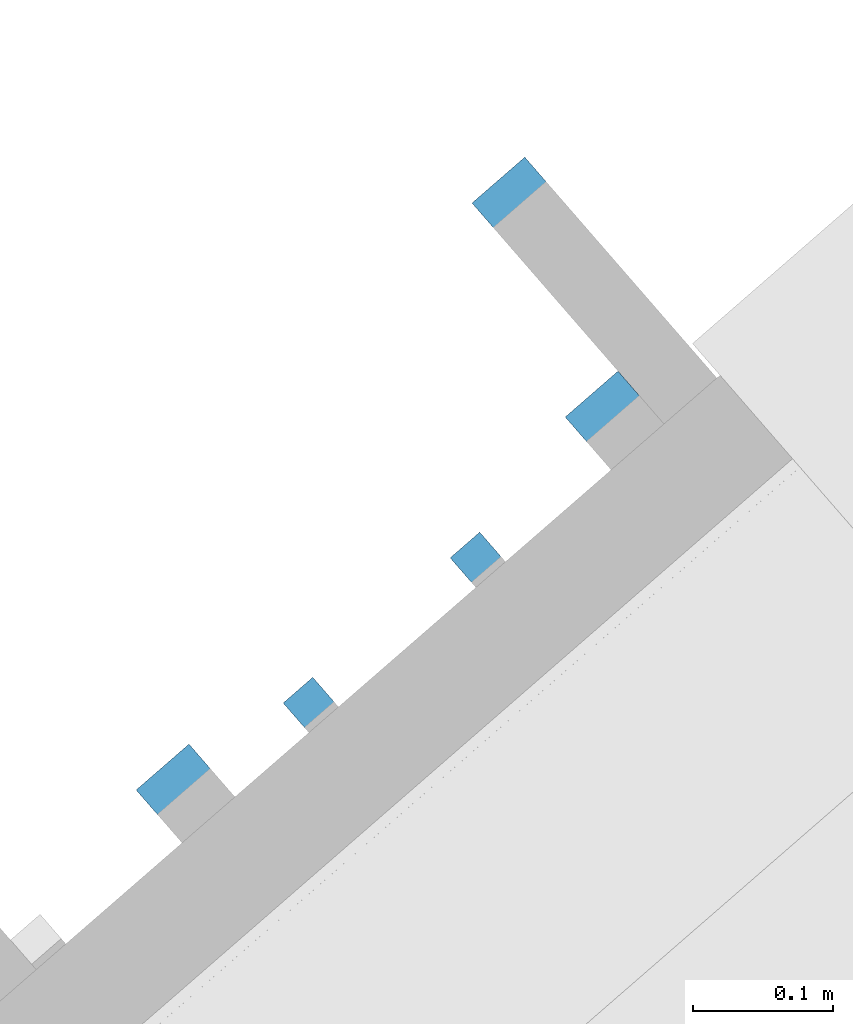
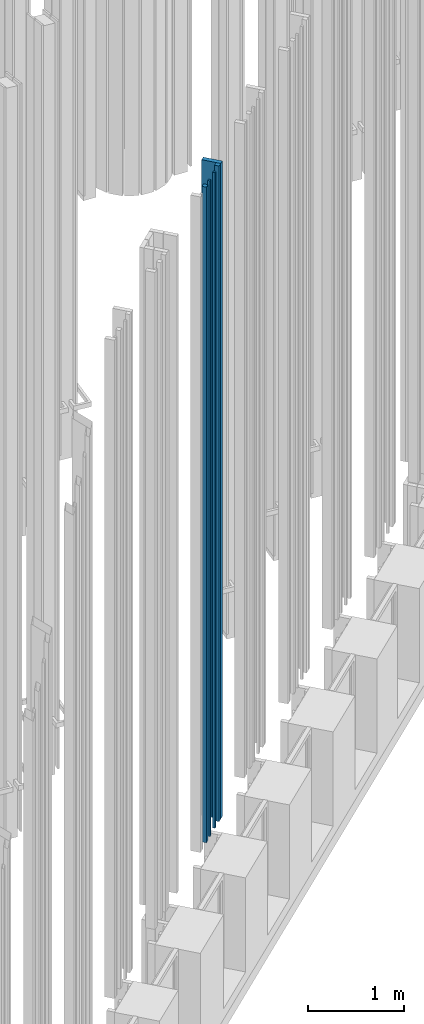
# One storey, part 241 of 390: 5 walls.
"""IFC2X3 building model written with IfcOpenShell, lengths in millimetres."""

from ifc_helpers import new_model, entity, si_unit, converted_unit, derived_unit, money_unit, direction, frame, origin_with_axes, place, context, subcontext, project, spatial, faceted_brep, material, type_object, element, save


model = new_model("IFC2X3")

# Units and contexts
model_context = context("Model", 3, precision=1e-05, world=origin_with_axes(), true_north=direction((0.0, 1.0)))
body_context = subcontext(model_context, "Body", "Model", "MODEL_VIEW")
ifc_project = project(units=[si_unit("LENGTHUNIT", "METRE", prefix="MILLI"), si_unit("AREAUNIT", "SQUARE_METRE"), si_unit("VOLUMEUNIT", "CUBIC_METRE"), converted_unit("PLANEANGLEUNIT", "DEGREE", entity("IfcPlaneAngleMeasure", 0.0174532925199), si_unit("PLANEANGLEUNIT", "RADIAN"), dimensions=[0, 0, 0, 0, 0, 0, 0]), si_unit("SOLIDANGLEUNIT", "STERADIAN"), money_unit("EUR"), converted_unit("TIMEUNIT", "Year", entity("IfcTimeMeasure", 31556926.0), si_unit("TIMEUNIT", "SECOND"), dimensions=[0, 0, 1, 0, 0, 0, 0]), si_unit("MASSUNIT", "GRAM", prefix="KILO"), si_unit("THERMODYNAMICTEMPERATUREUNIT", "DEGREE_CELSIUS"), si_unit("LUMINOUSINTENSITYUNIT", "LUMEN"), si_unit("ENERGYUNIT", "JOULE", prefix="MEGA"), derived_unit("THERMALCONDUCTANCEUNIT", [(si_unit("POWERUNIT", "WATT"), 1), (si_unit("LENGTHUNIT", "METRE"), -1), (si_unit("THERMODYNAMICTEMPERATUREUNIT", "KELVIN"), -1)]), derived_unit("SPECIFICHEATCAPACITYUNIT", [(si_unit("ENERGYUNIT", "JOULE"), 1), (si_unit("MASSUNIT", "GRAM", prefix="KILO"), -1), (si_unit("THERMODYNAMICTEMPERATUREUNIT", "KELVIN"), -1)]), derived_unit("MASSDENSITYUNIT", [(si_unit("MASSUNIT", "GRAM", prefix="KILO"), 1), (si_unit("VOLUMEUNIT", "CUBIC_METRE"), -1)])], contexts=[model_context])

# Site, building, storey
site_placement = place(None, origin_with_axes())
site = spatial("IfcSite", under=ifc_project, at=site_placement, Name="Site", CompositionType="ELEMENT")
building_placement = place(site_placement, origin_with_axes())
building = spatial("IfcBuilding", under=site, at=building_placement, Name="Building", CompositionType="ELEMENT")
storey_placement = place(building_placement, origin_with_axes())
storey = spatial("IfcBuildingStorey", under=building, at=storey_placement, Name="1 korrus", CompositionType="ELEMENT", Elevation=0.0)

# Walls
ifc_material = material(Name="Site specified")
wall_type = type_object("IfcWallType", Name="Puitfassaadi ribistik", PredefinedType="NOTDEFINED")
wall_placement = place(storey_placement, frame((143509.543339, 94892.6970963, 1535.82031325), z_axis=(0.0, 0.0, 1.0), x_axis=(0.754709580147, 0.656059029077, 0.0)))
element("IfcWall", 1, at=wall_placement, inside=storey, type_object=wall_type, material=ifc_material, Name="Site specified", context=body_context, shape_type="Brep", body=[
    faceted_brep([(25.0, 104.5, 8329.17968675), (25.0, 104.5, 0.0), (-25.0, 104.5, 0.0), (-25.0, 104.5, 8329.17968675), (25.0, -104.5, 8329.17968675), (25.0, -104.5, 0.0), (-25.0, -104.5, 0.0), (-25.0, -104.5, 8329.17968675)], [[[0, 1, 2, 3]], [[4, 5, 1, 0]], [[2, 1, 5, 6]], [[3, 2, 6, 7]], [[4, 0, 3, 7]], [[7, 6, 5, 4]]]),
])
for number, where, z_axis, x_axis, name in (
    (2, (143426.276571, 94700.4007228, 1535.82031325), (0.0, 0.0, 1.0), (0.754709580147, 0.656059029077, 0.0), "Site specified"),
    (3, (143307.032457, 94596.7433962, 1535.82031325), (0.0, 0.0, 1.0), (0.754709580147, 0.656059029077, 0.0), "Site specified"),
):
    element("IfcWall", number, at=place(storey_placement, frame(where, z_axis=z_axis, x_axis=x_axis)), inside=storey, type_object=wall_type, material=ifc_material, Name=name, context=body_context, shape_type="Brep", body=[
        faceted_brep([(14.0, 14.0, 8329.17968675), (14.0, 14.0, 0.0), (-14.0, 14.0, 0.0), (-14.0, 14.0, 8329.17968675), (14.0, -14.0, 8329.17968675), (14.0, -14.0, 0.0), (-14.0, -14.0, 0.0), (-14.0, -14.0, 8329.17968675)], [[[0, 1, 2, 3]], [[4, 5, 1, 0]], [[2, 1, 5, 6]], [[3, 2, 6, 7]], [[4, 0, 3, 7]], [[7, 6, 5, 4]]]),
    ])
for number, where, z_axis, x_axis, name in (
    (4, (143217.552463, 94533.5347675, 1535.82031325), (0.0, 0.0, 1.0), (0.754709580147, 0.656059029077, 0.0), "Site specified"),
    (5, (143523.964553, 94799.8947333, 1535.82031325), (0.0, 0.0, 1.0), (0.754709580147, 0.656059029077, 0.0), "Site specified"),
):
    element("IfcWall", number, at=place(storey_placement, frame(where, z_axis=z_axis, x_axis=x_axis)), inside=storey, type_object=wall_type, material=ifc_material, Name=name, context=body_context, shape_type="Brep", body=[
        faceted_brep([(25.0, 25.0, 8329.17968675), (25.0, 25.0, 0.0), (-25.0, 25.0, 0.0), (-25.0, 25.0, 8329.17968675), (25.0, -25.0, 8329.17968675), (25.0, -25.0, 0.0), (-25.0, -25.0, 0.0), (-25.0, -25.0, 8329.17968675)], [[[0, 1, 2, 3]], [[4, 5, 1, 0]], [[2, 1, 5, 6]], [[3, 2, 6, 7]], [[4, 0, 3, 7]], [[7, 6, 5, 4]]]),
    ])

save(model, "model.ifc")
